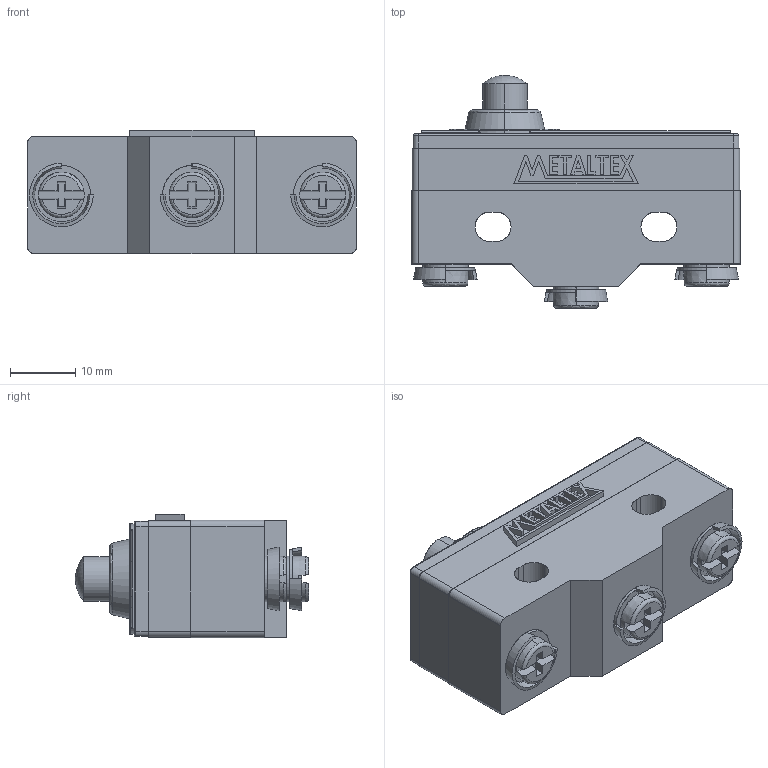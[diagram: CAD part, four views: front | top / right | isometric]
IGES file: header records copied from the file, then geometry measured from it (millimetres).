
Start section: SolidWorks IGES file using analytic representation for surfaces
Global section: file name: D:\X - Arquivos\PROEX\Empresas\P11 - METALTEX\01 - Produtos\IGES\4ª remessa\1ª etapa\FM1306.IGS; native system: SolidWorks 2012; preprocessor: SolidWorks 2012; author: Usuario; date: 180323.102406; units: millimetre
Bounding box: 50.3 x 35.67 x 18.9 mm (x, y, z)
Surface area: 6450.4 mm2 (no closed solid volume)
Topology: 0 solids, 0 shells, 266 faces, 2543 edges, 2531 vertices
Faces by surface type: bspline 199, revolution 67
